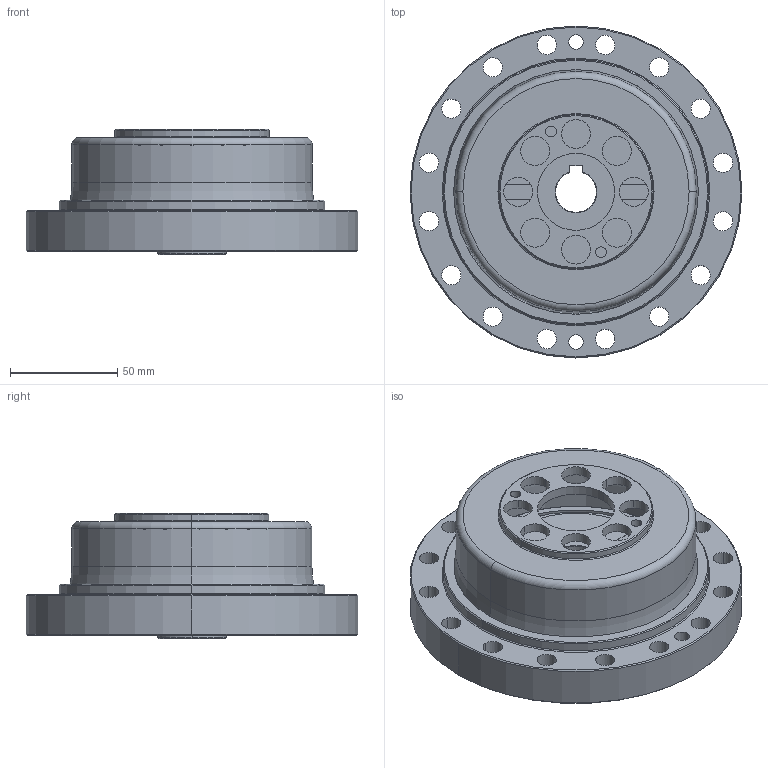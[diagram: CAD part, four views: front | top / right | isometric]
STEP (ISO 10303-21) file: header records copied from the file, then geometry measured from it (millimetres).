
FILE_DESCRIPTION (( 'STEP AP203' ), '1' );
FILE_NAME ('FCG-45-XXX-CO.STEP', '2023-02-22T09:01:15', ( '微软用户' ), ( '微软中国' ), 'SwSTEP 2.0', 'SolidWorks 2016', '' );
FILE_SCHEMA (( 'CONFIG_CONTROL_DESIGN' ));
Length unit declared in the file: millimetre
Products named in the file (1): FCG-45-XXX-CO
Bounding box: 155 x 155 x 58.5 mm (x, y, z)
Volume: 343895.4 mm3; surface area: 178961.6 mm2
Topology: 33 solids, 33 shells, 423 faces, 1140 edges, 744 vertices
Faces by surface type: cylinder 192, plane 110, cone 47, sphere 46, torus 28
Entity records: 12887 total; most frequent: DIRECTION 2476, CARTESIAN_POINT 2208, ORIENTED_EDGE 2050, AXIS2_PLACEMENT_3D 1055, EDGE_CURVE 1025, VERTEX_POINT 675, CIRCLE 631, EDGE_LOOP 508
